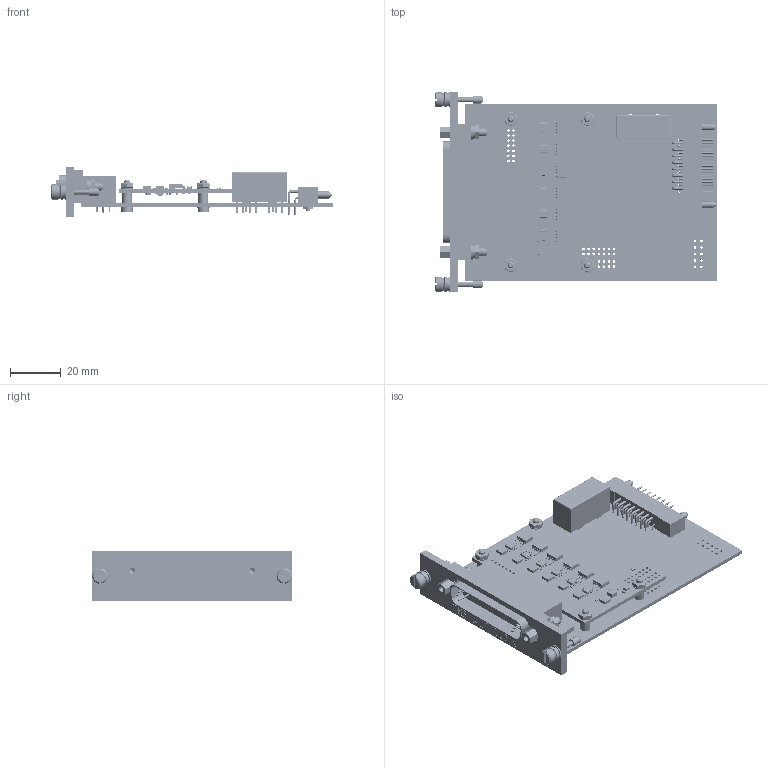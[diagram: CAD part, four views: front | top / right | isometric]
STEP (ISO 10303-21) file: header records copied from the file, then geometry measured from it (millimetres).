
FILE_DESCRIPTION(('STEP AP203'), '1');
FILE_NAME('帎迗.468155.014 沓劌錪 眝3_氈柉309', '', ('UNSPECIFIED'), ('UNSPECIFIED'), 'C3D Converter', 'C3D Toolkit', '');
FILE_SCHEMA(('CONFIG_CONTROL_DESIGN'));
Length unit declared in the file: millimetre
Products named in the file (1): КМНТ.468155.014
Bounding box: 110.89 x 78.5 x 19.6 mm (x, y, z)
Volume: 692.4 mm3; surface area: 33331.7 mm2
Topology: 131 solids, 132 shells, 12723 faces, 32059 edges, 19007 vertices
Faces by surface type: plane 6135, cylinder 4638, sphere 1488, bspline 343, torus 67, cone 52
Full cylindrical faces by diameter (mm): 0.388 x6, 0.6 x43, 0.7 x12, 0.8 x17, 1 x143, 1.1 x7, 1.4 x2, 1.6 x2, 2 x2, 2.362 x2, 2.459 x2, 2.49 x2, 2.5 x4, 3 x4, 3.175 x4, 3.2 x6, 3.4 x4, 4 x4, 4.5 x4, 5 x8, 6 x10
Entity records: 575615 total; most frequent: CARTESIAN_POINT 180982, ORIENTED_EDGE 60254, DIRECTION 59315, EDGE_CURVE 30207, AXIS2_PLACEMENT_3D 20510, VERTEX_POINT 18992, LINE 18295, VECTOR 18295
